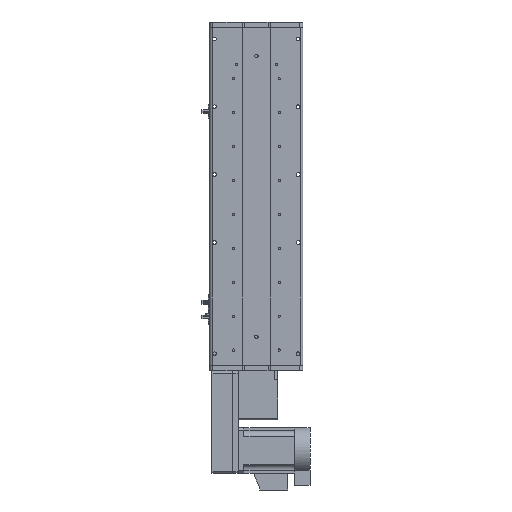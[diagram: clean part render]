
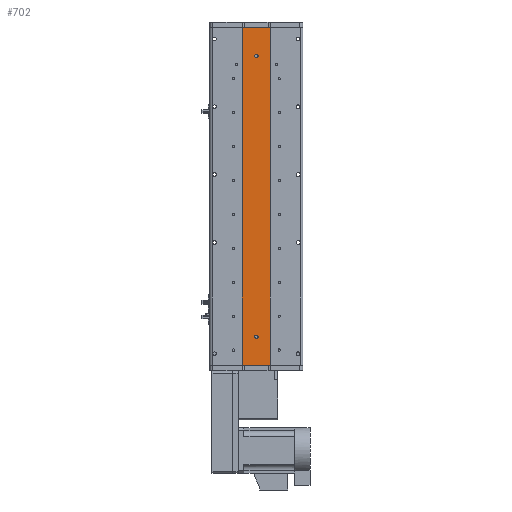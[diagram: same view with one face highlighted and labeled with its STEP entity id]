
A CAD part, front view. The second image highlights one B-rep face of the part: STEP entity #702.
In plain terms, the highlighted planar face has unit normal (0, -1, 0).
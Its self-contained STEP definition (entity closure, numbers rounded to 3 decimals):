
#702 = ADVANCED_FACE ( 'NONE', ( #28864, #5309, #39854 ), #8514, .F. ) ;
#1415 = VERTEX_POINT ( 'NONE', #39515 ) ;
#1625 = CARTESIAN_POINT ( 'NONE',  ( -25., 1., 298.5 ) ) ;
#1829 = CARTESIAN_POINT ( 'NONE',  ( 0., 1., -248.5 ) ) ;
#3466 = CARTESIAN_POINT ( 'NONE',  ( 0., 1., 245.5 ) ) ;
#4387 = CARTESIAN_POINT ( 'NONE',  ( 0., 1., -248.5 ) ) ;
#5293 = EDGE_LOOP ( 'NONE', ( #43504, #8701, #20880, #42261 ) ) ;
#5309 = FACE_BOUND ( 'NONE', #13589, .T. ) ;
#6116 = CIRCLE ( 'NONE', #48021, 3. ) ;
#6334 = VERTEX_POINT ( 'NONE', #12360 ) ;
#6547 = DIRECTION ( 'NONE',  ( 0., 0., 1. ) ) ;
#6686 = AXIS2_PLACEMENT_3D ( 'NONE', #1829, #34709, #6547 ) ;
#7042 = VERTEX_POINT ( 'NONE', #51792 ) ;
#8514 = PLANE ( 'NONE',  #9287 ) ;
#8701 = ORIENTED_EDGE ( 'NONE', *, *, #57763, .F. ) ;
#8715 = DIRECTION ( 'NONE',  ( 1., 0., 0. ) ) ;
#9114 = ORIENTED_EDGE ( 'NONE', *, *, #54560, .T. ) ;
#9153 = DIRECTION ( 'NONE',  ( 0., 0., 1. ) ) ;
#9287 = AXIS2_PLACEMENT_3D ( 'NONE', #46099, #22755, #55621 ) ;
#11226 = CARTESIAN_POINT ( 'NONE',  ( 25., 1., 298.5 ) ) ;
#11762 = CARTESIAN_POINT ( 'NONE',  ( 0., 1., 251.5 ) ) ;
#12360 = CARTESIAN_POINT ( 'NONE',  ( 0., 1., -251.5 ) ) ;
#13175 = ORIENTED_EDGE ( 'NONE', *, *, #19023, .T. ) ;
#13589 = EDGE_LOOP ( 'NONE', ( #9114, #23774 ) ) ;
#14083 = ORIENTED_EDGE ( 'NONE', *, *, #38226, .T. ) ;
#14457 = CARTESIAN_POINT ( 'NONE',  ( 25., 1., -298.5 ) ) ;
#16020 = DIRECTION ( 'NONE',  ( 0., 0., -1. ) ) ;
#16171 = EDGE_CURVE ( 'NONE', #19780, #17412, #17450, .T. ) ;
#17412 = VERTEX_POINT ( 'NONE', #14457 ) ;
#17450 = LINE ( 'NONE', #41577, #54964 ) ;
#17549 = EDGE_LOOP ( 'NONE', ( #14083, #13175 ) ) ;
#18228 = CARTESIAN_POINT ( 'NONE',  ( 0., 1., 248.5 ) ) ;
#18617 = DIRECTION ( 'NONE',  ( 0., 0., -1. ) ) ;
#19023 = EDGE_CURVE ( 'NONE', #7042, #6334, #41036, .T. ) ;
#19780 = VERTEX_POINT ( 'NONE', #40875 ) ;
#20142 = CARTESIAN_POINT ( 'NONE',  ( -25., 1., 298.5 ) ) ;
#20459 = EDGE_CURVE ( 'NONE', #51923, #1415, #35057, .T. ) ;
#20880 = ORIENTED_EDGE ( 'NONE', *, *, #20459, .F. ) ;
#21016 = VERTEX_POINT ( 'NONE', #11762 ) ;
#21644 = CIRCLE ( 'NONE', #34067, 3. ) ;
#22590 = VECTOR ( 'NONE', #44095, 1000. ) ;
#22755 = DIRECTION ( 'NONE',  ( 0., 1., 0. ) ) ;
#23001 = DIRECTION ( 'NONE',  ( 0., 0., 1. ) ) ;
#23137 = VECTOR ( 'NONE', #16020, 1000. ) ;
#23774 = ORIENTED_EDGE ( 'NONE', *, *, #33923, .T. ) ;
#27137 = DIRECTION ( 'NONE',  ( 0., 1., 0. ) ) ;
#28363 = LINE ( 'NONE', #37505, #51895 ) ;
#28864 = FACE_BOUND ( 'NONE', #17549, .T. ) ;
#33923 = EDGE_CURVE ( 'NONE', #21016, #55175, #21644, .T. ) ;
#34067 = AXIS2_PLACEMENT_3D ( 'NONE', #18228, #51107, #23001 ) ;
#34709 = DIRECTION ( 'NONE',  ( 0., 1., 0. ) ) ;
#35057 = LINE ( 'NONE', #11226, #22590 ) ;
#35572 = LINE ( 'NONE', #1625, #23137 ) ;
#37311 = DIRECTION ( 'NONE',  ( 0., 1., 0. ) ) ;
#37505 = CARTESIAN_POINT ( 'NONE',  ( 25., 1., 298.5 ) ) ;
#38226 = EDGE_CURVE ( 'NONE', #6334, #7042, #41315, .T. ) ;
#39515 = CARTESIAN_POINT ( 'NONE',  ( 25., 1., 298.5 ) ) ;
#39854 = FACE_OUTER_BOUND ( 'NONE', #5293, .T. ) ;
#40875 = CARTESIAN_POINT ( 'NONE',  ( -25., 1., -298.5 ) ) ;
#41036 = CIRCLE ( 'NONE', #57463, 3. ) ;
#41315 = CIRCLE ( 'NONE', #6686, 3. ) ;
#41577 = CARTESIAN_POINT ( 'NONE',  ( 25., 1., -298.5 ) ) ;
#42261 = ORIENTED_EDGE ( 'NONE', *, *, #47437, .T. ) ;
#43504 = ORIENTED_EDGE ( 'NONE', *, *, #16171, .T. ) ;
#44095 = DIRECTION ( 'NONE',  ( 1., 0., 0. ) ) ;
#46099 = CARTESIAN_POINT ( 'NONE',  ( 25., 1., 298.5 ) ) ;
#47437 = EDGE_CURVE ( 'NONE', #51923, #19780, #35572, .T. ) ;
#48021 = AXIS2_PLACEMENT_3D ( 'NONE', #55312, #27137, #60093 ) ;
#51107 = DIRECTION ( 'NONE',  ( 0., 1., 0. ) ) ;
#51792 = CARTESIAN_POINT ( 'NONE',  ( 0., 1., -245.5 ) ) ;
#51895 = VECTOR ( 'NONE', #18617, 1000. ) ;
#51923 = VERTEX_POINT ( 'NONE', #20142 ) ;
#54560 = EDGE_CURVE ( 'NONE', #55175, #21016, #6116, .T. ) ;
#54964 = VECTOR ( 'NONE', #8715, 1000. ) ;
#55175 = VERTEX_POINT ( 'NONE', #3466 ) ;
#55312 = CARTESIAN_POINT ( 'NONE',  ( 0., 1., 248.5 ) ) ;
#55621 = DIRECTION ( 'NONE',  ( 0., 0., 1. ) ) ;
#57463 = AXIS2_PLACEMENT_3D ( 'NONE', #4387, #37311, #9153 ) ;
#57763 = EDGE_CURVE ( 'NONE', #1415, #17412, #28363, .T. ) ;
#60093 = DIRECTION ( 'NONE',  ( 0., 0., 1. ) ) ;
